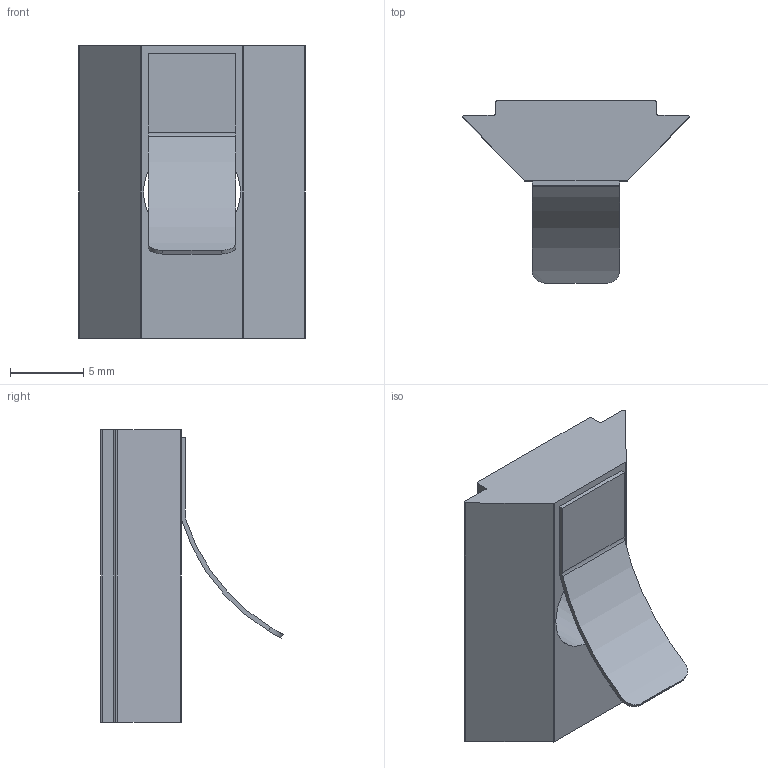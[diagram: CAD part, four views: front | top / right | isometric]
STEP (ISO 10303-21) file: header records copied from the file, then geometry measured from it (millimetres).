
FILE_DESCRIPTION((''),'2;1');
FILE_NAME('C:\Vault Klient\Projekt\Step\100-6045.stp','2009-12-10T12:34:13',('Mathias'),(''),'Autodesk Inventor 2010','Autodesk Inventor 2010','');
FILE_SCHEMA(('CONFIG_CONTROL_DESIGN'));
Length unit declared in the file: millimetre
Products named in the file (1): 100-6045
Bounding box: 15.5 x 12.5 x 20 mm (x, y, z)
Volume: 1082.7 mm3; surface area: 1045.2 mm2
Topology: 1 solids, 1 shells, 29 faces, 79 edges, 53 vertices
Faces by surface type: plane 15, cylinder 13, bspline 1
Entity records: 982 total; most frequent: CARTESIAN_POINT 212, DIRECTION 155, ORIENTED_EDGE 154, EDGE_CURVE 77, AXIS2_PLACEMENT_3D 53, VERTEX_POINT 52, VECTOR 49, LINE 49
